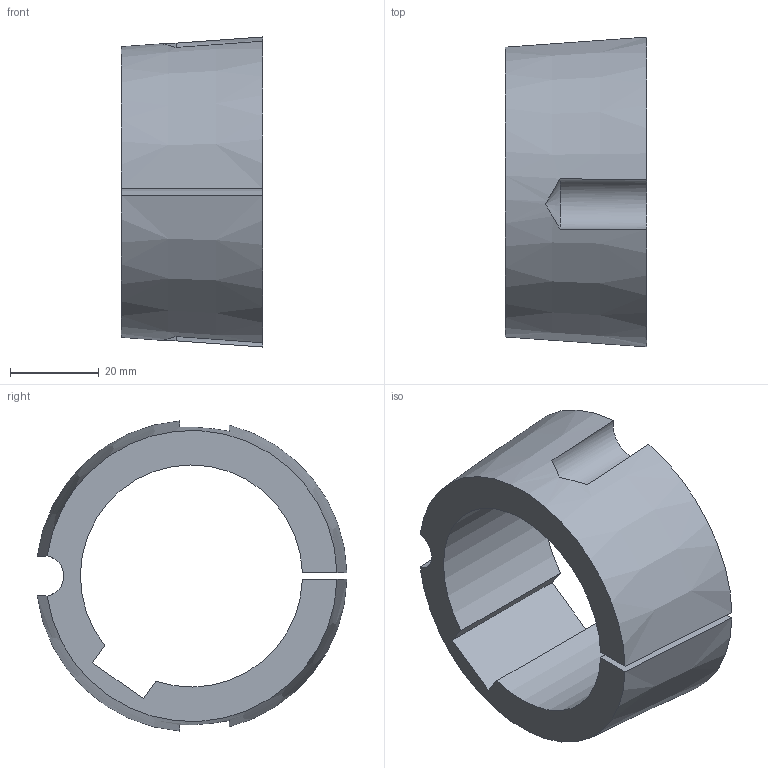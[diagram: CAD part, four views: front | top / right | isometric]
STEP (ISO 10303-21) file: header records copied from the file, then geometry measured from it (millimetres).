
FILE_DESCRIPTION( ( 'STEP AP203' ), '1' );
FILE_NAME( 'D:/export/antriebselemente/spannbuchsen_und_spannsaetze/taper-spannbuchsen_1008_bis_5050/taper-spannbuchsen_62250550Isometric_133.stp', '2018-12-11T11:11:14', ( '' ), ( '' ), ' ', 'PARTsolutions', ' ' );
FILE_SCHEMA( ( 'CONFIG_CONTROL_DESIGN' ) );
Length unit declared in the file: millimetre
Products named in the file (1): _taper-spannbuchsen_62250550
Bounding box: 31.8 x 69.72 x 69.81 mm (x, y, z)
Volume: 46474 mm3; surface area: 16042.6 mm2
Topology: 1 solids, 1 shells, 16 faces, 42 edges, 28 vertices
Faces by surface type: plane 7, cylinder 5, cone 4
Entity records: 618 total; most frequent: CARTESIAN_POINT 179, ORIENTED_EDGE 84, DIRECTION 82, EDGE_CURVE 42, AXIS2_PLACEMENT_3D 33, VERTEX_POINT 28, ADVANCED_FACE 16, FACE_OUTER_BOUND 16
